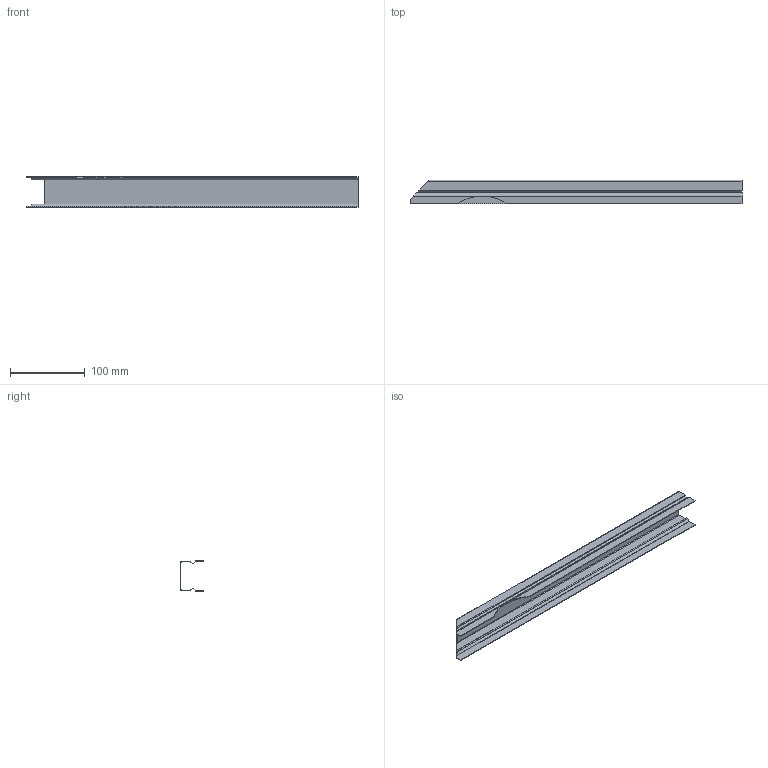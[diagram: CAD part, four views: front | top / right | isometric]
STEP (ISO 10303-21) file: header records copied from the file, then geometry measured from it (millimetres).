
FILE_DESCRIPTION (( 'STEP AP203' ), '1' );
FILE_NAME ('70-0269-00 REV 2, CABLE COVER, 13.5in FLEX, BLACK.STEP', '2017-01-25T17:38:29', ( '' ), ( '' ), 'SwSTEP 2.0', 'SolidWorks 2012', '' );
FILE_SCHEMA (( 'CONFIG_CONTROL_DESIGN' ));
Length unit declared in the file: inch
Products named in the file (1): 70-0269-00 REV 2, CABLE COVER, 13.5in FLEX, BLACK
Bounding box: 444.5 x 31.77 x 40.47 mm (x, y, z)
Volume: 40748 mm3; surface area: 90152.5 mm2
Topology: 1 solids, 1 shells, 80 faces, 166 edges, 88 vertices
Faces by surface type: plane 51, cylinder 18, bspline 11
Entity records: 2319 total; most frequent: CARTESIAN_POINT 678, ORIENTED_EDGE 332, DIRECTION 304, EDGE_CURVE 166, LINE 124, VECTOR 124, AXIS2_PLACEMENT_3D 90, VERTEX_POINT 88
